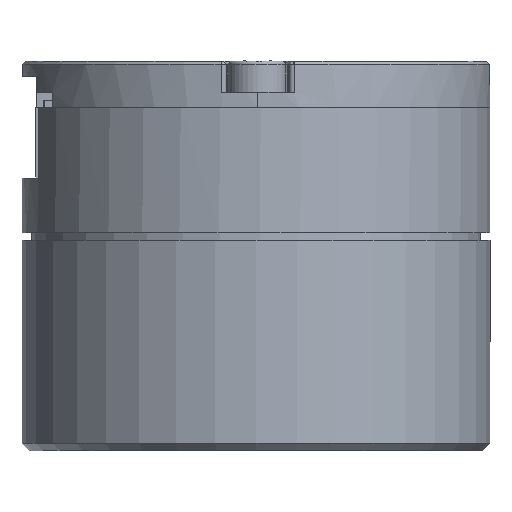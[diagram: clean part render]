
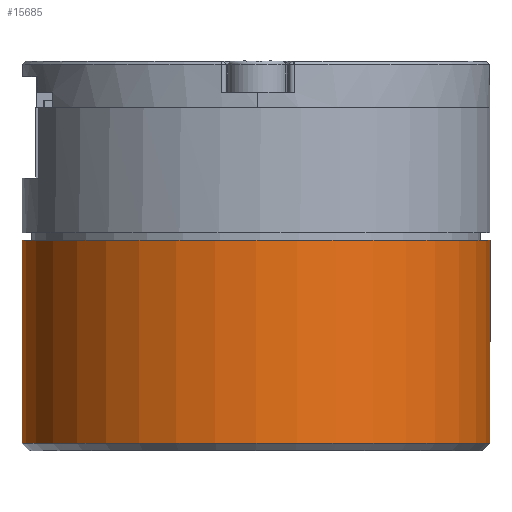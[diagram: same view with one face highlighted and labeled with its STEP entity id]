
A CAD part, front view. The second image highlights one B-rep face of the part: STEP entity #15685.
In plain terms, the highlighted cylindrical face has radius 15 mm (diameter 30 mm), a partial arc.
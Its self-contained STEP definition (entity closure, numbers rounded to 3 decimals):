
#640 = CARTESIAN_POINT ( 'NONE',  ( -14.121, 3.767, 12.5 ) ) ;
#1347 = VERTEX_POINT ( 'NONE', #4375 ) ;
#2267 = AXIS2_PLACEMENT_3D ( 'NONE', #6959, #13457, #9305 ) ;
#3269 = ORIENTED_EDGE ( 'NONE', *, *, #11363, .T. ) ;
#3275 = CARTESIAN_POINT ( 'NONE',  ( -14.121, 3.767, -0.5 ) ) ;
#3471 = ORIENTED_EDGE ( 'NONE', *, *, #15086, .T. ) ;
#3721 = EDGE_CURVE ( 'NONE', #7655, #1347, #9433, .T. ) ;
#4273 = CIRCLE ( 'NONE', #6146, 15. ) ;
#4331 = DIRECTION ( 'NONE',  ( 0., 0., 1. ) ) ;
#4370 = CARTESIAN_POINT ( 'NONE',  ( 15.879, 3.767, 0. ) ) ;
#4375 = CARTESIAN_POINT ( 'NONE',  ( 15.879, 3.767, -0.5 ) ) ;
#4402 = ORIENTED_EDGE ( 'NONE', *, *, #3721, .F. ) ;
#4455 = VECTOR ( 'NONE', #14164, 1000. ) ;
#6146 = AXIS2_PLACEMENT_3D ( 'NONE', #9860, #10986, #13673 ) ;
#6823 = CARTESIAN_POINT ( 'NONE',  ( 15.879, 3.767, 12.5 ) ) ;
#6959 = CARTESIAN_POINT ( 'NONE',  ( 0.879, 3.767, 0. ) ) ;
#7655 = VERTEX_POINT ( 'NONE', #6823 ) ;
#8843 = AXIS2_PLACEMENT_3D ( 'NONE', #15759, #4331, #9541 ) ;
#9045 = VERTEX_POINT ( 'NONE', #3275 ) ;
#9305 = DIRECTION ( 'NONE',  ( -1., 0., 0. ) ) ;
#9433 = LINE ( 'NONE', #4370, #9565 ) ;
#9541 = DIRECTION ( 'NONE',  ( 1., 0., 0. ) ) ;
#9565 = VECTOR ( 'NONE', #14627, 1000. ) ;
#9612 = ORIENTED_EDGE ( 'NONE', *, *, #14695, .F. ) ;
#9860 = CARTESIAN_POINT ( 'NONE',  ( 0.879, 3.767, -0.5 ) ) ;
#10732 = CIRCLE ( 'NONE', #8843, 15. ) ;
#10986 = DIRECTION ( 'NONE',  ( 0., 0., 1. ) ) ;
#11363 = EDGE_CURVE ( 'NONE', #16026, #9045, #12893, .T. ) ;
#12893 = LINE ( 'NONE', #14000, #4455 ) ;
#13373 = CYLINDRICAL_SURFACE ( 'NONE', #2267, 15. ) ;
#13457 = DIRECTION ( 'NONE',  ( 0., 0., -1. ) ) ;
#13673 = DIRECTION ( 'NONE',  ( 1., 0., 0. ) ) ;
#14000 = CARTESIAN_POINT ( 'NONE',  ( -14.121, 3.767, 0. ) ) ;
#14164 = DIRECTION ( 'NONE',  ( 0., 0., -1. ) ) ;
#14627 = DIRECTION ( 'NONE',  ( 0., 0., -1. ) ) ;
#14660 = FACE_OUTER_BOUND ( 'NONE', #16416, .T. ) ;
#14695 = EDGE_CURVE ( 'NONE', #16026, #7655, #10732, .T. ) ;
#15086 = EDGE_CURVE ( 'NONE', #9045, #1347, #4273, .T. ) ;
#15685 = ADVANCED_FACE ( 'NONE', ( #14660 ), #13373, .T. ) ;
#15759 = CARTESIAN_POINT ( 'NONE',  ( 0.879, 3.767, 12.5 ) ) ;
#16026 = VERTEX_POINT ( 'NONE', #640 ) ;
#16416 = EDGE_LOOP ( 'NONE', ( #4402, #9612, #3269, #3471 ) ) ;
